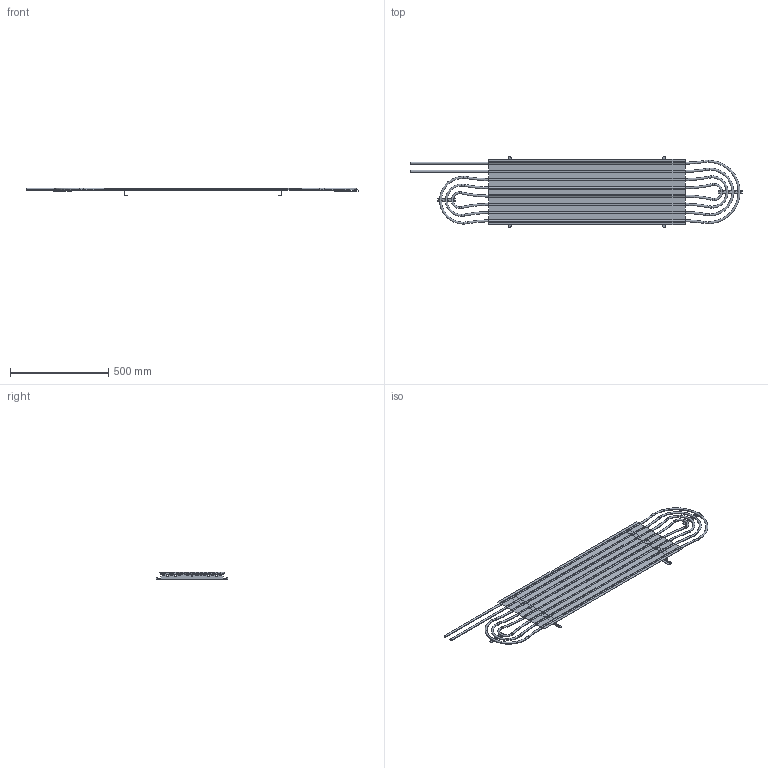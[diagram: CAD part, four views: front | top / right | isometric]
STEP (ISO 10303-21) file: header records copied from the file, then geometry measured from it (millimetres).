
FILE_DESCRIPTION (( 'STEP AP214' ), '1' );
FILE_NAME ('AP 100.STEP', '2021-04-13T07:19:15', ( '' ), ( '' ), 'SwSTEP 2.0', 'SolidWorks 2019', '' );
FILE_SCHEMA (( 'AUTOMOTIVE_DESIGN' ));
Length unit declared in the file: millimetre
Products named in the file (12): G54R2_ref_lemez_hf_p_4valyu_500mm__2qqq; P003 - Termék; Fésû; cs饘esb嫕at; F駸獷3; G54R2_ref_lemez_hf_p_4valyu_500mm__2qqq_334x1000; F駸獷4; P003 - Termék_Felhajtott; AP 100; cs饘esb嫕at_1
Assembly tree (6 placements, depth 2):
  G54R2_ref_lemez_hf_p_4valyu_500mm__2qqq
  P003 - Termék
  Fésû
  cs饘esb嫕at
  P003 - Termék
Bounding box: 1690 x 362 x 37.5 mm (x, y, z)
Volume: 457442.4 mm3; surface area: 1790543 mm2
Topology: 6 solids, 6 shells, 758 faces, 1966 edges, 1220 vertices
Faces by surface type: cylinder 335, plane 263, torus 140, bspline 20
Entity records: 18004 total; most frequent: CARTESIAN_POINT 3814, DIRECTION 3184, ORIENTED_EDGE 2828, EDGE_CURVE 1414, AXIS2_PLACEMENT_3D 1254, VERTEX_POINT 868, CIRCLE 698, VECTOR 676
